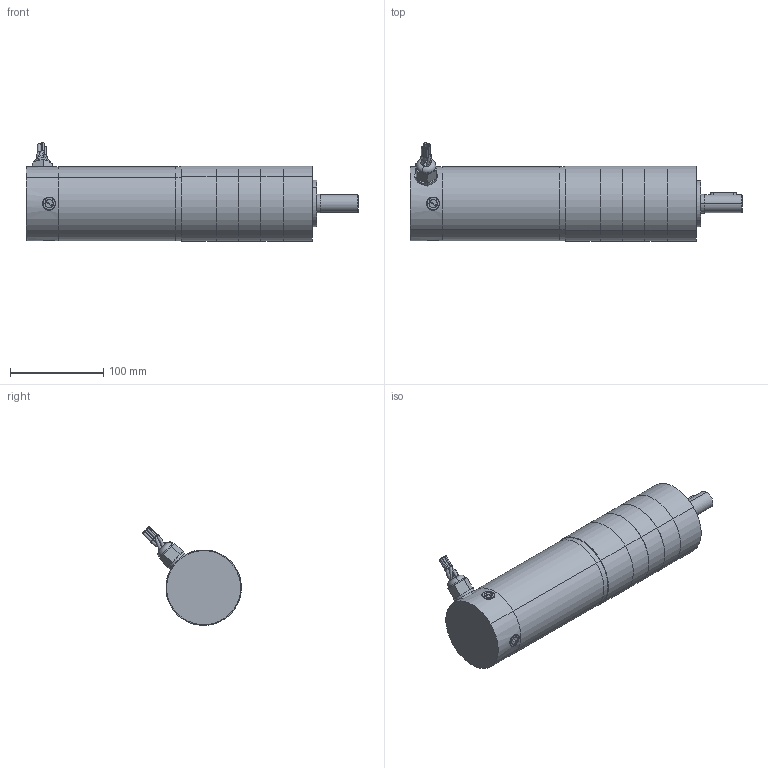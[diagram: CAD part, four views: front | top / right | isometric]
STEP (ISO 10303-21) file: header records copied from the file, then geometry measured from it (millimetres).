
FILE_DESCRIPTION (( 'STEP AP203' ), '1' );
FILE_NAME ('d33655agp3.step', '2018-12-07T19:33:11', ( '' ), ( '' ), 'SwSTEP 2.0', 'SolidWorks 2017', '' );
FILE_SCHEMA (( 'CONFIG_CONTROL_DESIGN' ));
Length unit declared in the file: inch
Products named in the file (1): d33655agp3
Bounding box: 355.72 x 105.69 x 105.69 mm (x, y, z)
Volume: 1588438.3 mm3; surface area: 183424.1 mm2
Topology: 21 solids, 21 shells, 499 faces, 1084 edges, 659 vertices
Faces by surface type: plane 220, cylinder 179, cone 53, torus 31, bspline 8, sphere 8
Entity records: 14576 total; most frequent: CARTESIAN_POINT 3345, DIRECTION 2563, ORIENTED_EDGE 2136, EDGE_CURVE 1068, AXIS2_PLACEMENT_3D 1049, VERTEX_POINT 659, EDGE_LOOP 567, CIRCLE 557
